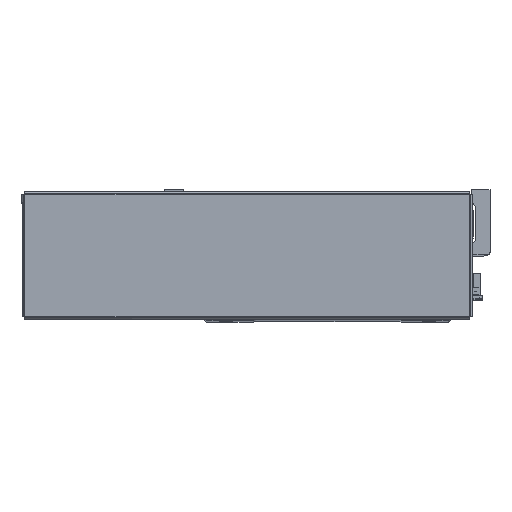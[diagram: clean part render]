
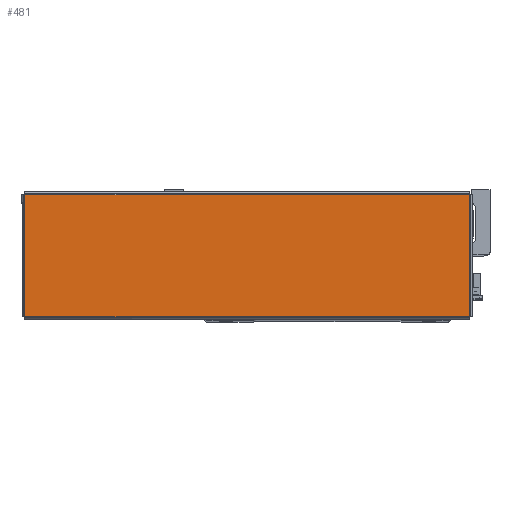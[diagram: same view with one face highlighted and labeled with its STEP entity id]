
A CAD part, top view. The second image highlights one B-rep face of the part: STEP entity #481.
In plain terms, the highlighted planar face has unit normal (0, 0, 1) as drawn and (0, -1, 0) by its records, which use the part's own axes.
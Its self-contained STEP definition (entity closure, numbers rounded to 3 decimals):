
#481 = ADVANCED_FACE ( 'NONE', ( #21032 ), #9816, .F. ) ;
#9797 = CARTESIAN_POINT ( 'NONE',  ( 0., -1.2, 0. ) ) ;
#9816 = PLANE ( 'NONE',  #36158 ) ;
#9833 = DIRECTION ( 'NONE',  ( 0., 1., 0. ) ) ;
#9863 = DIRECTION ( 'NONE',  ( 0., 0., 1. ) ) ;
#15311 = EDGE_CURVE ( 'NONE', #30274, #30313, #40534, .T. ) ;
#15338 = EDGE_CURVE ( 'NONE', #30384, #30274, #40633, .T. ) ;
#15347 = EDGE_CURVE ( 'NONE', #30313, #30329, #40617, .T. ) ;
#15369 = EDGE_CURVE ( 'NONE', #30329, #30384, #40661, .T. ) ;
#21032 = FACE_OUTER_BOUND ( 'NONE', #29369, .T. ) ;
#21406 = CARTESIAN_POINT ( 'NONE',  ( 154.013, -1.2, 42.263 ) ) ;
#21448 = CARTESIAN_POINT ( 'NONE',  ( -154.013, -1.2, 42.263 ) ) ;
#21474 = CARTESIAN_POINT ( 'NONE',  ( -154.013, -1.2, -42.263 ) ) ;
#21511 = CARTESIAN_POINT ( 'NONE',  ( 154.013, -1.2, -42.263 ) ) ;
#29369 = EDGE_LOOP ( 'NONE', ( #35441, #35461, #35428, #35469 ) ) ;
#30274 = VERTEX_POINT ( 'NONE', #21406 ) ;
#30313 = VERTEX_POINT ( 'NONE', #21448 ) ;
#30329 = VERTEX_POINT ( 'NONE', #21474 ) ;
#30384 = VERTEX_POINT ( 'NONE', #21511 ) ;
#33246 = CARTESIAN_POINT ( 'NONE',  ( 154.043, -1.2, 42.263 ) ) ;
#33254 = DIRECTION ( 'NONE',  ( -1., 0., 0. ) ) ;
#33283 = CARTESIAN_POINT ( 'NONE',  ( 154.013, -1.2, -42.293 ) ) ;
#33294 = DIRECTION ( 'NONE',  ( 0., 0., 1. ) ) ;
#33329 = DIRECTION ( 'NONE',  ( 0., 0., -1. ) ) ;
#33353 = CARTESIAN_POINT ( 'NONE',  ( -154.013, -1.2, 42.293 ) ) ;
#33381 = CARTESIAN_POINT ( 'NONE',  ( -154.043, -1.2, -42.263 ) ) ;
#33382 = DIRECTION ( 'NONE',  ( 1., 0., 0. ) ) ;
#35428 = ORIENTED_EDGE ( 'NONE', *, *, #15347, .T. ) ;
#35441 = ORIENTED_EDGE ( 'NONE', *, *, #15338, .T. ) ;
#35461 = ORIENTED_EDGE ( 'NONE', *, *, #15311, .T. ) ;
#35469 = ORIENTED_EDGE ( 'NONE', *, *, #15369, .T. ) ;
#36158 = AXIS2_PLACEMENT_3D ( 'NONE', #9797, #9833, #9863 ) ;
#40509 = VECTOR ( 'NONE', #33254, 1000. ) ;
#40534 = LINE ( 'NONE', #33246, #40509 ) ;
#40583 = VECTOR ( 'NONE', #33329, 1000. ) ;
#40617 = LINE ( 'NONE', #33353, #40583 ) ;
#40626 = VECTOR ( 'NONE', #33294, 1000. ) ;
#40633 = LINE ( 'NONE', #33283, #40626 ) ;
#40661 = LINE ( 'NONE', #33381, #40710 ) ;
#40710 = VECTOR ( 'NONE', #33382, 1000. ) ;
